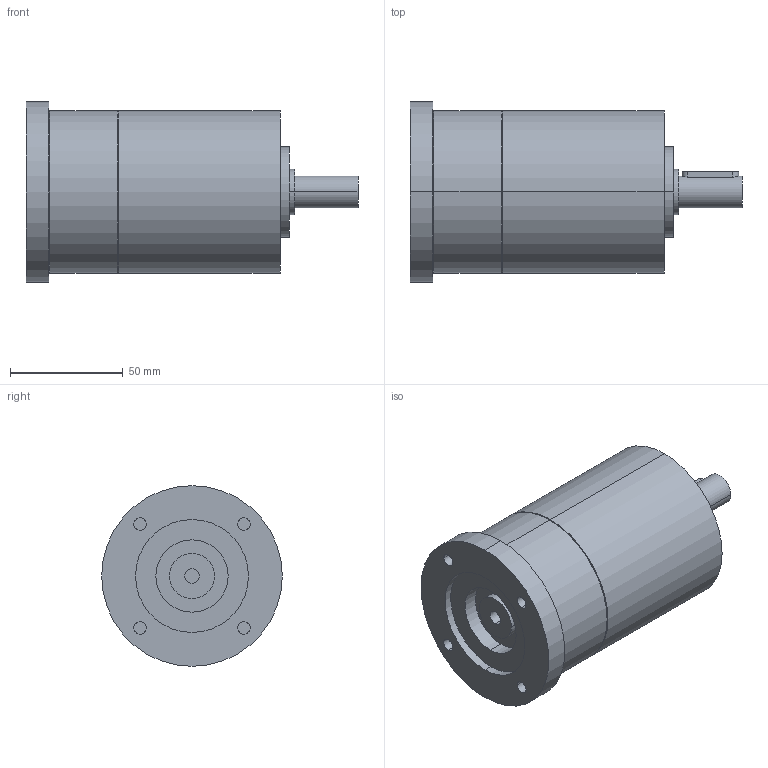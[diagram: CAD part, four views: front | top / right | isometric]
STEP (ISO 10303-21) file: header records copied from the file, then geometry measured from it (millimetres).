
FILE_DESCRIPTION(('CoCreate Modeling STEP Export'),'2;1');
FILE_NAME('GPT75_ig-9-12-16-20-25-28-35-40-50-70-100_14_B14T_6.35_P13.stp','2014-08-27T13:17:50',(''),(''),'CoCreate Modeling STEP processor for AP214 (Solid Model)','CoCreate Modeling 16.00C 25-Feb-2009 (C) Parametric Technology GmbH','');
FILE_SCHEMA(('AUTOMOTIVE_DESIGN { 1 0 10303 214 1 1 1 1 }'));
Length unit declared in the file: millimetre
Products named in the file (2): GPT75_ig-9-12-16-20-25-28-35-40-50-70-100_14_B14T_6.35_P13
Assembly tree (1 placements, depth 2):
  GPT75_ig-9-12-16-20-25-28-35-40-50-70-100_14_B14T_6.35_P13
    GPT75_ig-9-12-16-20-25-28-35-40-50-70-100_14_B14T_6.35_P13
Bounding box: 147 x 80 x 80 mm (x, y, z)
Volume: 463932.2 mm3; surface area: 41659 mm2
Topology: 1 solids, 1 shells, 67 faces, 150 edges, 103 vertices
Faces by surface type: cylinder 40, plane 23, cone 4
Entity records: 1958 total; most frequent: CARTESIAN_POINT 627, ORIENTED_EDGE 300, DIRECTION 222, EDGE_CURVE 150, VERTEX_POINT 103, AXIS2_PLACEMENT_3D 86, EDGE_LOOP 85, FACE_OUTER_BOUND 67
